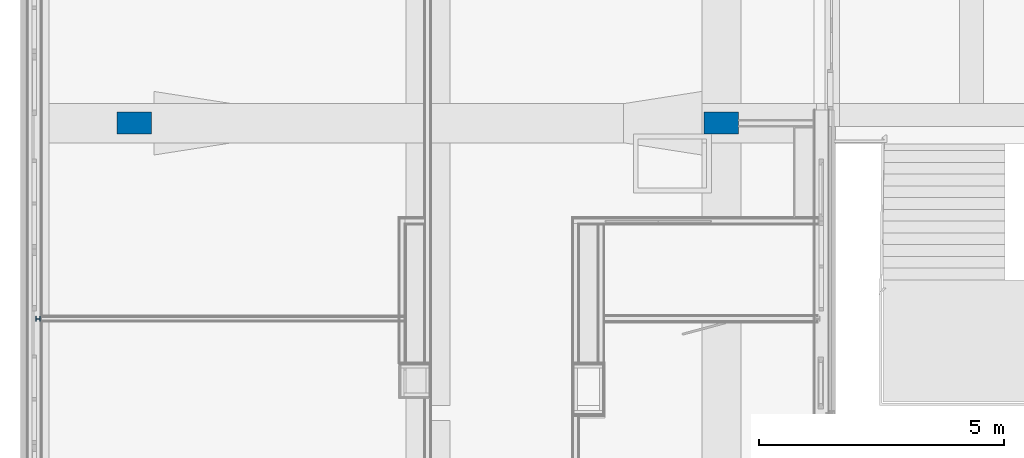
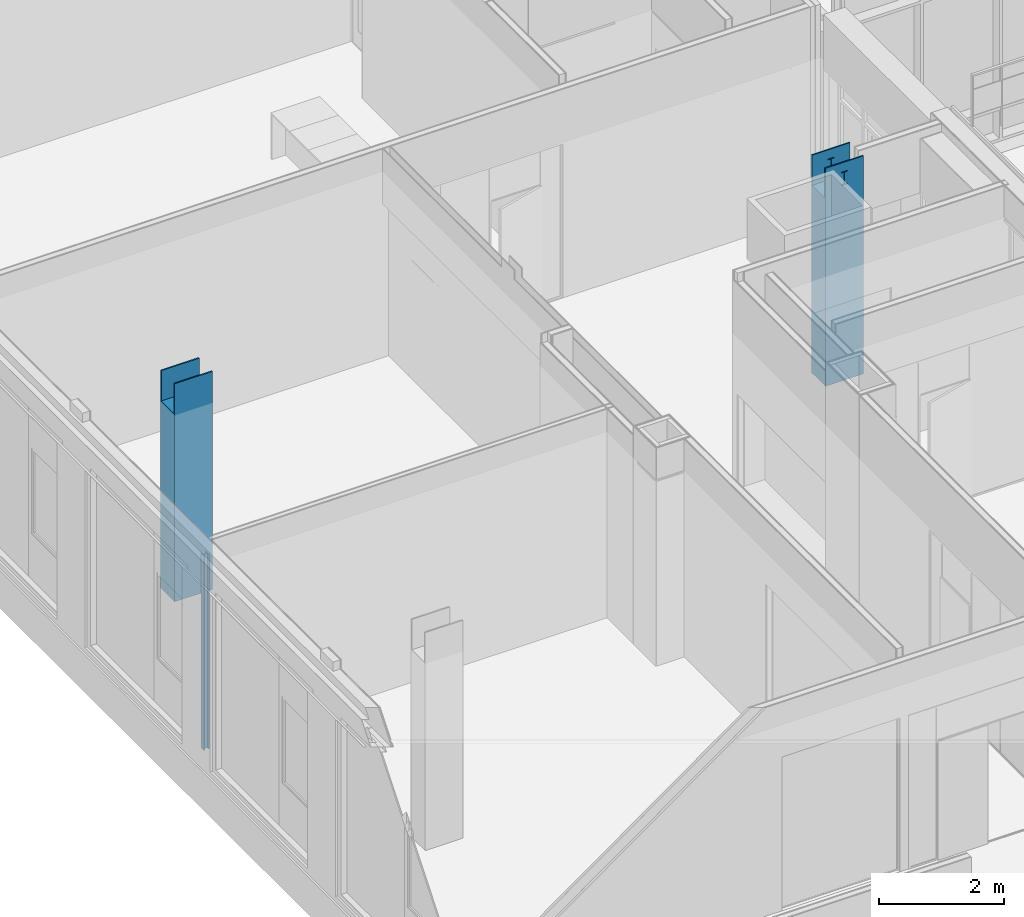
# One storey, part 7 of 94: 3 columns.
"""IFC2X3 building model written with IfcOpenShell, lengths in millimetres."""

from ifc_helpers import new_model, entity, si_unit, converted_unit, derived_unit, money_unit, direction, frame, origin_with_axes, place, context, subcontext, project, spatial, faceted_brep, material, type_object, element, save


model = new_model("IFC2X3")

# Units and contexts
model_context = context("Model", 3, precision=0.01, world=origin_with_axes(), true_north=direction((0.0, 1.0)))
body_context = subcontext(model_context, "Body", "Model", "MODEL_VIEW")
ifc_project = project(units=[si_unit("LENGTHUNIT", "METRE", prefix="MILLI"), si_unit("AREAUNIT", "SQUARE_METRE"), si_unit("VOLUMEUNIT", "CUBIC_METRE"), converted_unit("PLANEANGLEUNIT", "DEGREE", entity("IfcPlaneAngleMeasure", 0.0174532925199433), si_unit("PLANEANGLEUNIT", "RADIAN"), dimensions=[0, 0, 0, 0, 0, 0, 0]), money_unit("EUR"), converted_unit("TIMEUNIT", "Year", entity("IfcTimeMeasure", 31557600.0), si_unit("TIMEUNIT", "SECOND"), dimensions=[0, 0, 1, 0, 0, 0, 0]), si_unit("MASSUNIT", "GRAM", prefix="KILO"), si_unit("THERMODYNAMICTEMPERATUREUNIT", "DEGREE_CELSIUS"), si_unit("LUMINOUSINTENSITYUNIT", "LUMEN"), si_unit("ENERGYUNIT", "JOULE", prefix="MEGA"), derived_unit("THERMALCONDUCTANCEUNIT", [(si_unit("POWERUNIT", "WATT"), 1), (si_unit("LENGTHUNIT", "METRE"), -1), (si_unit("THERMODYNAMICTEMPERATUREUNIT", "KELVIN"), -1)]), derived_unit("SPECIFICHEATCAPACITYUNIT", [(si_unit("ENERGYUNIT", "JOULE"), 1), (si_unit("MASSUNIT", "GRAM", prefix="KILO"), -1), (si_unit("THERMODYNAMICTEMPERATUREUNIT", "KELVIN"), -1)]), derived_unit("MASSDENSITYUNIT", [(si_unit("MASSUNIT", "GRAM", prefix="KILO"), 1), (si_unit("VOLUMEUNIT", "CUBIC_METRE"), -1)])], contexts=[model_context])

# Site, building, storey
site_placement = place(None, origin_with_axes())
site = spatial("IfcSite", under=ifc_project, at=site_placement, Name="<site naam>", CompositionType="ELEMENT")
building_placement = place(site_placement, origin_with_axes())
building = spatial("IfcBuilding", under=site, at=building_placement, Name="<Naam gebouw>", CompositionType="ELEMENT")
storey_placement = place(building_placement, frame((0.0, 0.0, 4250.0), z_axis=(0.0, 0.0, 1.0), x_axis=(1.0, 0.0, 0.0)))
storey = spatial("IfcBuildingStorey", under=building, at=storey_placement, Name="01 1e verdieping", CompositionType="ELEMENT", Elevation=4250.0)

# Columns
ifc_material_1 = material(Name="staal C")
column_type_1 = type_object("IfcColumnType", Name="Profiel H algemeen 100 x 96", PredefinedType="COLUMN")
column_1_placement = place(storey_placement, frame((-11967.49999954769, 4000.000000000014, 0.0), z_axis=(0.0, 0.0, 1.0), x_axis=(0.0, -1.0, 0.0)))
element("IfcColumn", 1, at=column_1_placement, inside=storey, type_object=column_type_1, material=ifc_material_1, Name="28_Kolom_Profiel", ObjectType="COLUMN", context=body_context, shape_type="Brep", body=[
    faceted_brep([(-50.00000009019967, -48.00000045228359, 3789.999753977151), (-50.00000009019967, -48.00000045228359, 0.0), (50.00000009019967, -48.00000045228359, 0.0), (50.00000009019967, -48.00000045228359, 3789.999753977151), (-50.00000014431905, -39.99999797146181, 3789.999753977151), (-50.00000014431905, -39.99999797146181, 0.0), (-2.499999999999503, -39.99999797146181, 0.0), (-2.499999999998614, 39.99999797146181, 0.0), (-50.00000014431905, 39.99999797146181, 0.0), (-50.00000009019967, 48.00000045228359, 0.0), (50.00000009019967, 48.00000045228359, 0.0), (50.00000014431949, 39.99999797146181, 0.0), (2.500000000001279, 39.99999797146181, 0.0), (2.500000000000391, -39.99999797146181, 0.0), (50.00000014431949, -39.99999797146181, 0.0), (50.00000014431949, -39.99999797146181, 3789.999753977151), (2.500000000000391, -39.99999797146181, 3789.999753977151), (2.500000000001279, 39.99999797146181, 3789.999753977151), (50.00000014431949, 39.99999797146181, 3789.999753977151), (50.00000009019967, 48.00000045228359, 3789.999753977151), (-50.00000009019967, 48.00000045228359, 3789.999753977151), (-50.00000014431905, 39.99999797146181, 3789.999753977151), (-2.499999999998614, 39.99999797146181, 3789.999753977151), (-2.499999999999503, -39.99999797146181, 3789.999753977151)], [[[0, 1, 2, 3]], [[4, 5, 1, 0]], [[2, 1, 5, 6, 7, 8, 9, 10, 11, 12, 13, 14]], [[3, 2, 14, 15]], [[4, 0, 3, 15, 16, 17, 18, 19, 20, 21, 22, 23]], [[23, 6, 5, 4]], [[22, 7, 6, 23]], [[21, 8, 7, 22]], [[20, 9, 8, 21]], [[19, 10, 9, 20]], [[18, 11, 10, 19]], [[17, 12, 11, 18]], [[16, 13, 12, 17]], [[15, 14, 13, 16]]]),
])
ifc_material_2 = material(Name="betonblok C")
column_type_2 = type_object("IfcColumnType", Name="betonblok C 450 x 700", PredefinedType="COLUMN")
column_2_placement = place(storey_placement, frame((-9999.999999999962, 8000.000000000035, 0.0), z_axis=(0.0, 0.0, 1.0), x_axis=(0.0, 1.0, 0.0)))
element("IfcColumn", 2, at=column_2_placement, inside=storey, type_object=column_type_2, material=ifc_material_2, Name="28_Kolom_betonblok", ObjectType="COLUMN", context=body_context, shape_type="Brep", body=[
    faceted_brep([(224.9999999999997, 349.9999999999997, 4250.0), (199.9999999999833, 349.9999999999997, 4250.0), (199.9999999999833, -349.9999999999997, 4250.0), (224.9999999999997, -349.9999999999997, 4250.0), (-200.0000000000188, 349.9999999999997, 3659.999999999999), (199.9999999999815, 349.9999999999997, 3659.999999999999), (224.9999999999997, 349.9999999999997, 0.0), (-225.0000000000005, 349.9999999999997, 0.0), (-225.0000000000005, 349.9999999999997, 4250.0), (-200.0000000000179, 349.9999999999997, 4250.0), (199.9999999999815, -349.9999999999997, 3659.999999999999), (-200.0000000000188, -349.9999999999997, 3659.999999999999), (-200.0000000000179, -349.9999999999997, 4250.0), (-225.0000000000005, -349.9999999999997, 4250.0), (-225.0000000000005, -349.9999999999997, 0.0), (224.9999999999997, -349.9999999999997, 0.0)], [[[0, 1, 2, 3]], [[4, 5, 1, 0, 6, 7, 8, 9]], [[5, 10, 2, 1]], [[10, 11, 12, 13, 14, 15, 3, 2]], [[0, 3, 15, 6]], [[4, 11, 10, 5]], [[6, 15, 14, 7]], [[13, 8, 7, 14]], [[13, 12, 9, 8]], [[4, 9, 12, 11]]]),
])
column_3_placement = place(storey_placement, frame((2000.000000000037, 8000.000000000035, 0.0), z_axis=(0.0, 0.0, 1.0), x_axis=(0.0, 1.0, 0.0)))
element("IfcColumn", 3, at=column_3_placement, inside=storey, type_object=column_type_2, material=ifc_material_2, Name="28_Kolom_betonblok", ObjectType="COLUMN", context=body_context, shape_type="Brep", body=[
    faceted_brep([(-224.9999999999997, -349.9999999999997, 4250.0), (-224.9999999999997, 349.9999999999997, 4250.0), (-224.9999999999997, 349.9999999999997, 0.0), (-224.9999999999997, -349.9999999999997, 0.0), (-224.9999999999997, 4.699803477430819, 4055.900000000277), (-224.9999999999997, 56.50000294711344, 4055.900000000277), (-224.9999999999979, 56.50004253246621, 4070.000000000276), (-224.9999999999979, -56.50043557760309, 4070.000000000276), (-224.9999999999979, -56.50039599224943, 4055.900000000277), (-224.9999999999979, -4.700196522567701, 4055.900000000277), (-224.9999999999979, -4.700196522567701, 3824.099787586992), (-224.9999999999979, -56.50039599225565, 3824.09978758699), (-224.9999999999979, -56.50043557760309, 3809.999755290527), (-224.9999999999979, 56.50004253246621, 3809.999755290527), (-224.9999999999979, 56.50000294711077, 3824.09978758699), (-224.9999999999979, 4.699803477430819, 3824.099787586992), (-200.0000000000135, -349.9999999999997, 4250.0), (-200.0000000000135, 349.9999999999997, 4250.0), (-200.0000000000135, 349.9999999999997, 3659.999999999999), (199.9999999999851, 349.9999999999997, 3659.999999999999), (199.9999999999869, 349.9999999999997, 4250.0), (224.9999999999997, 349.9999999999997, 4250.0), (224.9999999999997, 349.9999999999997, 0.0), (224.9999999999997, -349.9999999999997, 0.0), (199.9999999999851, -349.9999999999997, 3659.999999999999), (-200.0000000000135, -349.9999999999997, 3659.999999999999), (224.9999999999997, -349.9999999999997, 4250.0), (199.9999999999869, -349.9999999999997, 4250.0), (-200.0000000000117, 4.699803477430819, 4055.900000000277), (-200.0000000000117, 56.50000294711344, 4055.900000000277), (-200.0000000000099, 56.50004253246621, 4070.000000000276), (-200.0000000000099, -56.50043557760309, 4070.000000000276), (-200.0000000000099, -56.50039599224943, 4055.900000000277), (-200.0000000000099, -4.700196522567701, 4055.900000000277), (-200.0000000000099, -4.700196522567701, 3824.099787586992), (-200.0000000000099, -56.50039599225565, 3824.09978758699), (-200.0000000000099, -56.50043557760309, 3809.999755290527), (-200.0000000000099, 56.50004253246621, 3809.999755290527), (-200.0000000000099, 56.50000294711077, 3824.09978758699), (-200.0000000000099, 4.699803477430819, 3824.099787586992), (199.9999999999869, 4.699803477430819, 4055.900000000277), (199.9999999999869, 56.50000294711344, 4055.900000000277), (199.9999999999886, 56.50004253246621, 4070.000000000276), (199.9999999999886, -56.50043557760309, 4070.000000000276), (199.9999999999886, -56.50039599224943, 4055.900000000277), (199.9999999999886, -4.700196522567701, 4055.900000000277), (199.9999999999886, -4.700196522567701, 3824.099787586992), (199.9999999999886, -56.50039599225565, 3824.09978758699), (199.9999999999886, -56.50043557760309, 3809.999755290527), (199.9999999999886, 56.50004253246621, 3809.999755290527), (199.9999999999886, 56.50000294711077, 3824.09978758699), (199.9999999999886, 4.699803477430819, 3824.099787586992), (224.9999999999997, -4.700196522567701, 3824.099787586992), (224.9999999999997, -4.700196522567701, 4055.900000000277), (224.9999999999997, -56.50039599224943, 4055.900000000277), (224.9999999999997, -56.50043557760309, 4070.000000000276), (224.9999999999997, 56.50004253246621, 4070.000000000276), (224.9999999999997, 56.50000294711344, 4055.900000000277), (224.9999999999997, 4.699803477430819, 4055.900000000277), (224.9999999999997, 4.699803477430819, 3824.099787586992), (224.9999999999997, 56.50000294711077, 3824.09978758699), (224.9999999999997, 56.50004253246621, 3809.999755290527), (224.9999999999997, -56.50043557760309, 3809.999755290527), (224.9999999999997, -56.50039599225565, 3824.09978758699)], [[[0, 1, 2, 3], [4, 5, 6, 7, 8, 9, 10, 11, 12, 13, 14, 15]], [[0, 16, 17, 1]], [[18, 19, 20, 21, 22, 2, 1, 17]], [[22, 23, 3, 2]], [[24, 25, 16, 0, 3, 23, 26, 27]], [[4, 28, 29, 5]], [[5, 29, 30, 6]], [[6, 30, 31, 7]], [[7, 31, 32, 8]], [[8, 32, 33, 9]], [[9, 33, 34, 10]], [[10, 34, 35, 11]], [[11, 35, 36, 12]], [[12, 36, 37, 13]], [[13, 37, 38, 14]], [[14, 38, 39, 15]], [[15, 39, 28, 4]], [[18, 17, 16, 25], [34, 33, 32, 31, 30, 29, 28, 39, 38, 37, 36, 35]], [[18, 25, 24, 19]], [[19, 24, 27, 20], [40, 41, 42, 43, 44, 45, 46, 47, 48, 49, 50, 51]], [[21, 20, 27, 26]], [[21, 26, 23, 22], [52, 53, 54, 55, 56, 57, 58, 59, 60, 61, 62, 63]], [[40, 58, 57, 41]], [[41, 57, 56, 42]], [[42, 56, 55, 43]], [[43, 55, 54, 44]], [[44, 54, 53, 45]], [[45, 53, 52, 46]], [[46, 52, 63, 47]], [[47, 63, 62, 48]], [[48, 62, 61, 49]], [[49, 61, 60, 50]], [[50, 60, 59, 51]], [[51, 59, 58, 40]]]),
])

save(model, "model.ifc")
